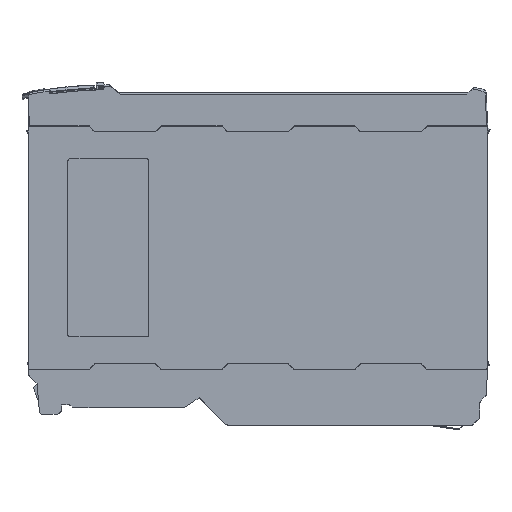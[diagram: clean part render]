
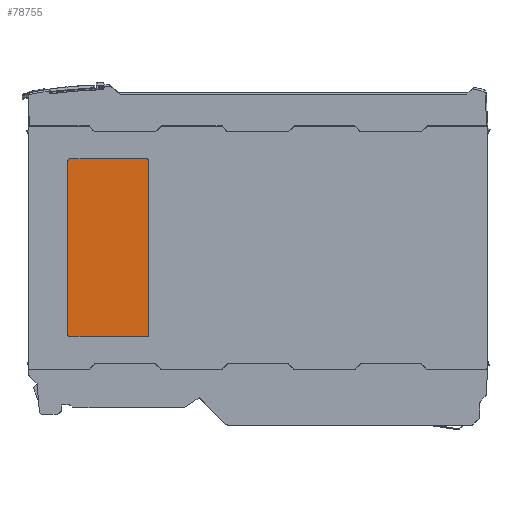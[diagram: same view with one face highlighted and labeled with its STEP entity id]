
A CAD part, left-side view. The second image highlights one B-rep face of the part: STEP entity #78755.
In plain terms, the highlighted planar face has unit normal (-1, 0, 0).
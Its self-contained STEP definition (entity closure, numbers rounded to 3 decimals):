
#1299 = ORIENTED_EDGE ( 'NONE', *, *, #82452, .T. ) ;
#1432 = ORIENTED_EDGE ( 'NONE', *, *, #82460, .T. ) ;
#1438 = ORIENTED_EDGE ( 'NONE', *, *, #82468, .T. ) ;
#1442 = ORIENTED_EDGE ( 'NONE', *, *, #82478, .T. ) ;
#1446 = ORIENTED_EDGE ( 'NONE', *, *, #82488, .T. ) ;
#1452 = ORIENTED_EDGE ( 'NONE', *, *, #82496, .T. ) ;
#1457 = ORIENTED_EDGE ( 'NONE', *, *, #82504, .T. ) ;
#1461 = ORIENTED_EDGE ( 'NONE', *, *, #82444, .T. ) ;
#78755 = ADVANCED_FACE ( 'NONE', ( #195955 ), #195961, .T. ) ;
#82444 = EDGE_CURVE ( 'NONE', #126180, #126241, #156531, .T. ) ;
#82452 = EDGE_CURVE ( 'NONE', #126175, #126180, #153080, .T. ) ;
#82460 = EDGE_CURVE ( 'NONE', #126120, #126175, #156577, .T. ) ;
#82468 = EDGE_CURVE ( 'NONE', #126136, #126120, #153098, .T. ) ;
#82478 = EDGE_CURVE ( 'NONE', #126124, #126136, #156616, .T. ) ;
#82488 = EDGE_CURVE ( 'NONE', #126138, #126124, #153102, .T. ) ;
#82496 = EDGE_CURVE ( 'NONE', #126146, #126138, #156655, .T. ) ;
#82504 = EDGE_CURVE ( 'NONE', #126241, #126146, #153109, .T. ) ;
#126120 = VERTEX_POINT ( 'NONE', #179797 ) ;
#126124 = VERTEX_POINT ( 'NONE', #179785 ) ;
#126136 = VERTEX_POINT ( 'NONE', #179800 ) ;
#126138 = VERTEX_POINT ( 'NONE', #179804 ) ;
#126146 = VERTEX_POINT ( 'NONE', #179808 ) ;
#126175 = VERTEX_POINT ( 'NONE', #179813 ) ;
#126180 = VERTEX_POINT ( 'NONE', #179821 ) ;
#126241 = VERTEX_POINT ( 'NONE', #179850 ) ;
#153072 = AXIS2_PLACEMENT_3D ( 'NONE', #156562, #156564, #156567 ) ;
#153080 = CIRCLE ( 'NONE', #153072, 1. ) ;
#153088 = VECTOR ( 'NONE', #156540, 1000. ) ;
#153089 = VECTOR ( 'NONE', #156584, 1000. ) ;
#153091 = AXIS2_PLACEMENT_3D ( 'NONE', #156601, #156603, #156605 ) ;
#153098 = CIRCLE ( 'NONE', #153091, 1. ) ;
#153101 = VECTOR ( 'NONE', #156625, 1000. ) ;
#153102 = CIRCLE ( 'NONE', #153108, 1. ) ;
#153107 = VECTOR ( 'NONE', #156661, 1000. ) ;
#153108 = AXIS2_PLACEMENT_3D ( 'NONE', #156644, #156646, #156647 ) ;
#153109 = CIRCLE ( 'NONE', #153113, 1. ) ;
#153113 = AXIS2_PLACEMENT_3D ( 'NONE', #156683, #156684, #156686 ) ;
#156531 = LINE ( 'NONE', #156538, #153088 ) ;
#156538 = CARTESIAN_POINT ( 'NONE',  ( -32.789, 96.8, 33.464 ) ) ;
#156540 = DIRECTION ( 'NONE',  ( 0., -1., 0. ) ) ;
#156562 = CARTESIAN_POINT ( 'NONE',  ( -32.789, 95.8, 34.464 ) ) ;
#156564 = DIRECTION ( 'NONE',  ( -1., 0., 0. ) ) ;
#156567 = DIRECTION ( 'NONE',  ( 0., 1., 0. ) ) ;
#156577 = LINE ( 'NONE', #156583, #153089 ) ;
#156583 = CARTESIAN_POINT ( 'NONE',  ( -32.789, 96.8, 33.464 ) ) ;
#156584 = DIRECTION ( 'NONE',  ( 0., 0., -1. ) ) ;
#156601 = CARTESIAN_POINT ( 'NONE',  ( -32.789, 95.8, 122.464 ) ) ;
#156603 = DIRECTION ( 'NONE',  ( -1., 0., 0. ) ) ;
#156605 = DIRECTION ( 'NONE',  ( 0., 1., 0. ) ) ;
#156616 = LINE ( 'NONE', #156623, #153101 ) ;
#156623 = CARTESIAN_POINT ( 'NONE',  ( -32.789, 96.8, 123.464 ) ) ;
#156625 = DIRECTION ( 'NONE',  ( 0., 1., 0. ) ) ;
#156643 = CARTESIAN_POINT ( 'NONE',  ( -32.789, 56., 33.464 ) ) ;
#156644 = CARTESIAN_POINT ( 'NONE',  ( -32.789, 57., 122.464 ) ) ;
#156646 = DIRECTION ( 'NONE',  ( -1., 0., 0. ) ) ;
#156647 = DIRECTION ( 'NONE',  ( 0., 1., 0. ) ) ;
#156655 = LINE ( 'NONE', #156643, #153107 ) ;
#156661 = DIRECTION ( 'NONE',  ( 0., 0., 1. ) ) ;
#156683 = CARTESIAN_POINT ( 'NONE',  ( -32.789, 57., 34.464 ) ) ;
#156684 = DIRECTION ( 'NONE',  ( -1., 0., 0. ) ) ;
#156686 = DIRECTION ( 'NONE',  ( 0., 1., 0. ) ) ;
#169880 = AXIS2_PLACEMENT_3D ( 'NONE', #196015, #196017, #196022 ) ;
#179785 = CARTESIAN_POINT ( 'NONE',  ( -32.789, 57., 123.464 ) ) ;
#179797 = CARTESIAN_POINT ( 'NONE',  ( -32.789, 96.8, 122.464 ) ) ;
#179800 = CARTESIAN_POINT ( 'NONE',  ( -32.789, 95.8, 123.464 ) ) ;
#179804 = CARTESIAN_POINT ( 'NONE',  ( -32.789, 56., 122.464 ) ) ;
#179808 = CARTESIAN_POINT ( 'NONE',  ( -32.789, 56., 34.464 ) ) ;
#179813 = CARTESIAN_POINT ( 'NONE',  ( -32.789, 96.8, 34.464 ) ) ;
#179821 = CARTESIAN_POINT ( 'NONE',  ( -32.789, 95.8, 33.464 ) ) ;
#179850 = CARTESIAN_POINT ( 'NONE',  ( -32.789, 57., 33.464 ) ) ;
#195955 = FACE_OUTER_BOUND ( 'NONE', #261714, .T. ) ;
#195961 = PLANE ( 'NONE',  #169880 ) ;
#196015 = CARTESIAN_POINT ( 'NONE',  ( -32.789, 0.763, 71.197 ) ) ;
#196017 = DIRECTION ( 'NONE',  ( -1., 0., 0. ) ) ;
#196022 = DIRECTION ( 'NONE',  ( 0., 1., 0. ) ) ;
#261714 = EDGE_LOOP ( 'NONE', ( #1461, #1457, #1452, #1446, #1442, #1438, #1432, #1299 ) ) ;
